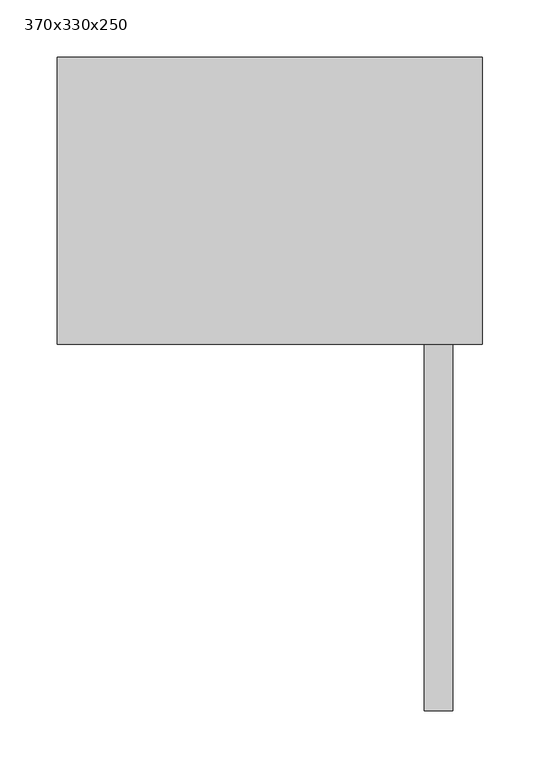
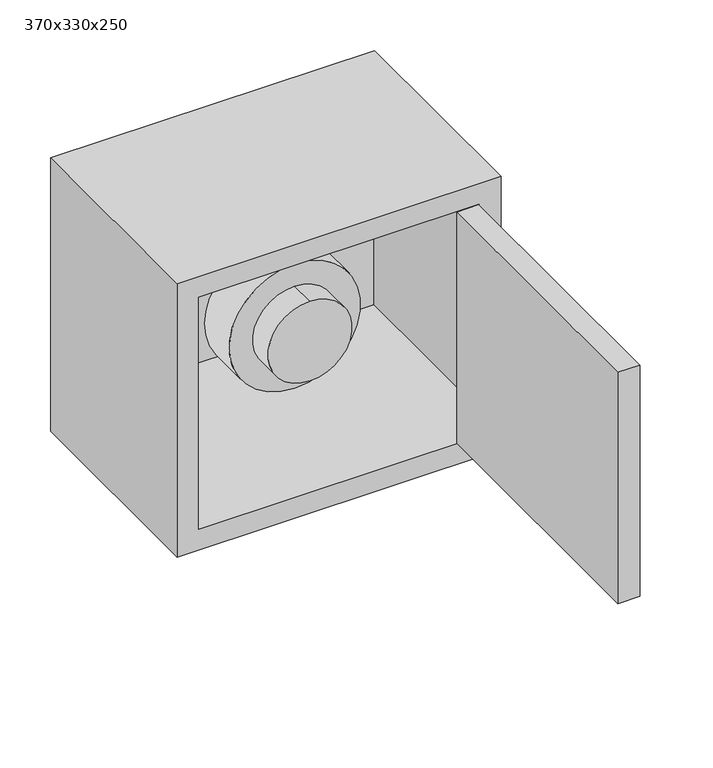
"""IFC4 building model written with IfcOpenShell, lengths in millimetres: furniture geometry, ME_ST_UN_connection box_ACO : 370x330x250."""

from ifc_helpers import new_model, si_unit, point, frame, frame_2d, origin, place, context, project, spatial, polyline, circle_curve, trimmed, segment, composite_curve, outline, extrude, source, transform, mapped, element, save
from ifc_brep_helpers import plane_surface, cylinder_surface, revolved_surface, advanced_brep


def furniture_370x330x250_b7c620b6(model_context):
    return source(origin(), model_context, "Body", "SolidModel", [
        extrude(outline(composite_curve([segment(trimmed(circle_curve(frame_2d((175.0, -10.0)), 25.0), [point((150.0, -10.0))], [point((200.0, -10.0))], False, "CARTESIAN"), True, "CONTINUOUS"), segment(trimmed(circle_curve(frame_2d((175.0, -10.0)), 25.0), [point((200.0, -10.0))], [point((150.0, -10.0))], False, "CARTESIAN"), True, "CONTINUOUS")], self_intersect=False)), frame((0.0, 148.0, 0.0), z_axis=(0.0, 1.0, 0.0), x_axis=(0.0, 0.0, 1.0)), (0.0, 0.0, 1.0), 102.0),
        advanced_brep(
        [(-10.0, 148.0, 127.0), (-10.0, 148.0, 223.0), (-10.0, 40.0, 127.0), (-10.0, 40.0, 223.0), (-10.0, 118.0, 223.0), (-10.0, 118.0, 127.0), (-10.0, 70.0, 127.0), (-10.0, 70.0, 223.0), (-10.0, 118.0, 100.0), (-10.0, 118.0, 250.0), (-10.0, 70.0, 100.0), (-10.0, 70.0, 250.0)],
        [
            (0, 1, circle_curve(frame((-10.0, 148.0, 175.0), z_axis=(0.0, 1.0, 0.0), x_axis=(0.0, 0.0, 1.0)), 48.0)),
            (1, 0, circle_curve(frame((-10.0, 148.0, 175.0), z_axis=(0.0, 1.0, 0.0), x_axis=(0.0, 0.0, 1.0)), 48.0)),
            (2, 3, circle_curve(frame((-10.0, 40.0, 175.0), z_axis=(0.0, -1.0, 0.0), x_axis=(0.0, 0.0, 1.0)), 48.0)),
            (3, 2, circle_curve(frame((-10.0, 40.0, 175.0), z_axis=(0.0, -1.0, 0.0), x_axis=(0.0, 0.0, 1.0)), 48.0)),
            (1, 4),
            (4, 5, circle_curve(frame((-10.0, 118.0, 175.0), z_axis=(0.0, 1.0, 0.0), x_axis=(0.0, 0.0, 1.0)), 48.0)),
            (5, 0),
            (2, 6),
            (6, 7, circle_curve(frame((-10.0, 70.0, 175.0), z_axis=(0.0, -1.0, 0.0), x_axis=(0.0, 0.0, 1.0)), 48.0)),
            (7, 3),
            (5, 4, circle_curve(frame((-10.0, 118.0, 175.0), z_axis=(0.0, 1.0, 0.0), x_axis=(0.0, 0.0, 1.0)), 48.0)),
            (7, 6, circle_curve(frame((-10.0, 70.0, 175.0), z_axis=(0.0, -1.0, 0.0), x_axis=(0.0, 0.0, 1.0)), 48.0)),
            (8, 9, circle_curve(frame((-10.0, 118.0, 175.0), z_axis=(0.0, 1.0, 0.0), x_axis=(0.0, 0.0, 1.0)), 75.0)),
            (9, 8, circle_curve(frame((-10.0, 118.0, 175.0), z_axis=(0.0, 1.0, 0.0), x_axis=(0.0, 0.0, 1.0)), 75.0)),
            (10, 11, circle_curve(frame((-10.0, 70.0, 175.0), z_axis=(0.0, -1.0, 0.0), x_axis=(0.0, 0.0, 1.0)), 75.0)),
            (11, 10, circle_curve(frame((-10.0, 70.0, 175.0), z_axis=(0.0, -1.0, 0.0), x_axis=(0.0, 0.0, 1.0)), 75.0)),
            (9, 11),
            (10, 8),
        ],
        [
            plane_surface(frame((-10.0, 148.0, 223.0), z_axis=(0.0, 1.0, 0.0), x_axis=(1.0, 0.0, 0.0))),
            plane_surface(frame((-10.0, 40.0, 223.0), z_axis=(0.0, -1.0, 0.0), x_axis=(-1.0, 0.0, 0.0))),
            cylinder_surface(frame((-10.0, 148.0, 175.0), z_axis=(0.0, -1.0, 0.0), x_axis=(0.0, 0.0, 1.0)), 48.0),
            plane_surface(frame((-10.0, 118.0, 250.0), z_axis=(0.0, 1.0, 0.0), x_axis=(1.0, 0.0, 0.0))),
            plane_surface(frame((-10.0, 70.0, 250.0), z_axis=(0.0, -1.0, 0.0), x_axis=(-1.0, 0.0, 0.0))),
            cylinder_surface(frame((-10.0, 118.0, 175.0), z_axis=(0.0, -1.0, 0.0), x_axis=(0.0, 0.0, 1.0)), 75.0),
        ],
        [
            (0, [[1, 2]]),
            (1, [[3, 4]]),
            (2, [[-2, 5, 6, 7]]),
            (2, [[-3, 8, 9, 10]]),
            (2, [[-1, -7, 11, -5]]),
            (2, [[-4, -10, 12, -8]]),
            (3, [[13, 14], [-6, -11]]),
            (4, [[15, 16], [-9, -12]]),
            (5, [[-14, 17, -15, 18]]),
            (5, [[-13, -18, -16, -17]]),
        ],
    ),
        extrude(outline(polyline([(134.5, -319.0), (134.5, 0.0), (159.5, 0.0), (159.5, -319.0), (134.5, -319.0)])), frame((0.0, 0.0, 25.5), z_axis=(0.0, 0.0, 1.0), x_axis=(1.0, 0.0, 0.0)), (0.0, 0.0, 1.0), 279.0),
        advanced_brep(
        [(185.0, 250.0, 330.0), (-185.0, 250.0, 330.0), (-185.0, 0.0, 330.0), (185.0, 0.0, 330.0), (185.0, 250.0, 0.0), (185.0, 0.0, 0.0), (-185.0, 0.0, 0.0), (-185.0, 250.0, 0.0), (-56.0, 250.0, 175.0), (36.0, 250.0, 175.0), (70.0, 250.0, 175.0), (110.0, 250.0, 175.0), (-160.0, 0.0, 305.0), (160.0, 0.0, 305.0), (160.0, 0.0, 25.0), (-160.0, 0.0, 25.0), (183.0, 248.0, 305.0), (183.0, 2.0, 305.0), (160.0, 2.0, 305.0), (-160.0, 2.0, 305.0), (-183.0, 2.0, 305.0), (-183.0, 248.0, 305.0), (183.0, 248.0, 25.0), (-183.0, 248.0, 25.0), (-183.0, 2.0, 25.0), (-160.0, 2.0, 25.0), (160.0, 2.0, 25.0), (183.0, 2.0, 25.0), (36.0, 248.0, 175.0), (-56.0, 248.0, 175.0), (110.0, 248.0, 175.0), (70.0, 248.0, 175.0)],
        [
            (0, 1),
            (1, 2),
            (2, 3),
            (3, 0),
            (4, 5),
            (5, 6),
            (6, 7),
            (7, 4),
            (0, 4),
            (7, 1),
            (8, 9, circle_curve(frame((-10.0, 250.0, 175.0), z_axis=(0.0, -1.0, 0.0), x_axis=(1.0, 0.0, 0.0)), 46.0)),
            (9, 8, circle_curve(frame((-10.0, 250.0, 175.0), z_axis=(0.0, -1.0, 0.0), x_axis=(1.0, 0.0, 0.0)), 46.0)),
            (10, 11, circle_curve(frame((90.0, 250.0, 175.0), z_axis=(0.0, -1.0, 0.0), x_axis=(1.0, 0.0, 0.0)), 20.0)),
            (11, 10, circle_curve(frame((90.0, 250.0, 175.0), z_axis=(0.0, -1.0, 0.0), x_axis=(1.0, 0.0, 0.0)), 20.0)),
            (6, 2),
            (5, 3),
            (12, 13),
            (13, 14),
            (14, 15),
            (15, 12),
            (16, 17),
            (17, 18),
            (18, 13),
            (12, 19),
            (19, 20),
            (20, 21),
            (21, 16),
            (22, 23),
            (23, 24),
            (24, 25),
            (25, 15),
            (14, 26),
            (26, 27),
            (27, 22),
            (21, 23),
            (22, 16),
            (28, 29, circle_curve(frame((-10.0, 248.0, 175.0), z_axis=(0.0, 1.0, 0.0), x_axis=(1.0, 0.0, 0.0)), 46.0)),
            (29, 28, circle_curve(frame((-10.0, 248.0, 175.0), z_axis=(0.0, 1.0, 0.0), x_axis=(1.0, 0.0, 0.0)), 46.0)),
            (30, 31, circle_curve(frame((90.0, 248.0, 175.0), z_axis=(0.0, 1.0, 0.0), x_axis=(1.0, 0.0, 0.0)), 20.0)),
            (31, 30, circle_curve(frame((90.0, 248.0, 175.0), z_axis=(0.0, 1.0, 0.0), x_axis=(1.0, 0.0, 0.0)), 20.0)),
            (27, 17),
            (20, 24),
            (19, 25),
            (18, 26),
            (28, 9),
            (8, 29),
            (30, 11),
            (10, 31),
        ],
        [
            plane_surface(frame((-185.0, 250.0, 330.0), z_axis=(0.0, 0.0, 1.0), x_axis=(-1.0, 0.0, 0.0))),
            plane_surface(frame((-185.0, 250.0, 0.0), z_axis=(0.0, 0.0, -1.0), x_axis=(1.0, 0.0, 0.0))),
            plane_surface(frame((185.0, 250.0, 330.0), z_axis=(0.0, 1.0, 0.0), x_axis=(0.0, 0.0, -1.0))),
            plane_surface(frame((-185.0, 250.0, 330.0), z_axis=(-1.0, 0.0, 0.0), x_axis=(0.0, 0.0, -1.0))),
            plane_surface(frame((-185.0, 0.0, 330.0), z_axis=(0.0, -1.0, 0.0), x_axis=(0.0, 0.0, -1.0))),
            plane_surface(frame((185.0, 0.0, 330.0), z_axis=(1.0, 0.0, 0.0), x_axis=(0.0, 0.0, -1.0))),
            plane_surface(frame((-183.0, 248.0, 305.0), z_axis=(0.0, 0.0, -1.0), x_axis=(-1.0, 0.0, 0.0))),
            plane_surface(frame((-183.0, 248.0, 25.0), z_axis=(0.0, 0.0, 1.0), x_axis=(1.0, 0.0, 0.0))),
            plane_surface(frame((183.0, 248.0, 305.0), z_axis=(0.0, -1.0, 0.0), x_axis=(0.0, 0.0, -1.0))),
            plane_surface(frame((183.0, 2.0, 305.0), z_axis=(-1.0, 0.0, 0.0), x_axis=(0.0, 0.0, -1.0))),
            plane_surface(frame((-183.0, 248.0, 305.0), z_axis=(1.0, 0.0, 0.0), x_axis=(0.0, 0.0, -1.0))),
            plane_surface(frame((-183.0, 2.0, 305.0), z_axis=(0.0, 1.0, 0.0), x_axis=(0.0, 0.0, -1.0))),
            plane_surface(frame((-160.0, 2.0, 305.0), z_axis=(1.0, 0.0, 0.0), x_axis=(0.0, 0.0, -1.0))),
            plane_surface(frame((160.0, 0.0, 305.0), z_axis=(-1.0, 0.0, 0.0), x_axis=(0.0, 0.0, -1.0))),
            plane_surface(frame((160.0, 2.0, 305.0), z_axis=(0.0, 1.0, 0.0), x_axis=(0.0, 0.0, -1.0))),
            revolved_surface(polyline([(36.0, 248.0, 175.0), (36.0, 250.0, 175.0)]), (-10.0, 250.0, 175.0), (0.0, -1.0, 0.0)),
            revolved_surface(polyline([(110.0, 248.0, 175.0), (110.0, 250.0, 175.0)]), (90.0, 250.0, 175.0), (0.0, -1.0, 0.0)),
        ],
        [
            (0, [[1, 2, 3, 4]]),
            (1, [[5, 6, 7, 8]]),
            (2, [[-1, 9, -8, 10], [11, 12], [13, 14]]),
            (3, [[-2, -10, -7, 15]]),
            (4, [[-3, -15, -6, 16], [17, 18, 19, 20]]),
            (5, [[-4, -16, -5, -9]]),
            (6, [[21, 22, 23, -17, 24, 25, 26, 27]]),
            (7, [[28, 29, 30, 31, -19, 32, 33, 34]]),
            (8, [[-27, 35, -28, 36], [37, 38], [39, 40]]),
            (9, [[-21, -36, -34, 41]]),
            (10, [[-26, 42, -29, -35]]),
            (11, [[-25, 43, -30, -42]]),
            (12, [[-24, -20, -31, -43]]),
            (13, [[-23, 44, -32, -18]]),
            (14, [[-22, -41, -33, -44]]),
            (15, [[45, -11, 46, -37]]),
            (15, [[-45, -38, -46, -12]]),
            (16, [[47, -13, 48, -39]]),
            (16, [[-47, -40, -48, -14]]),
        ],
    ),
    ])


if __name__ == "__main__":
    model = new_model("IFC4")
    model_context = context("Model", 3, world=origin())
    ifc_project = project(units=[si_unit("LENGTHUNIT", "METRE", prefix="MILLI")], contexts=[model_context])
    site = spatial("IfcSite", under=ifc_project)
    building = spatial("IfcBuilding", under=site)
    placement = place(None, origin())
    furniture_370x330x250_shape = furniture_370x330x250_b7c620b6(model_context)
    element("IfcFurniture", 1, ObjectType="ME_ST_UN_connection box_ACO : 370x330x250", at=placement, inside=building, context=model_context, shape_type="MappedRepresentation", body=[
        mapped(furniture_370x330x250_shape, transform((0.0, 0.0, 0.0), x_axis=(1.0, 0.0, 0.0), y_axis=(0.0, 1.0, 0.0), z_axis=(0.0, 0.0, 1.0))),
    ])
    save(model, "model.ifc")
